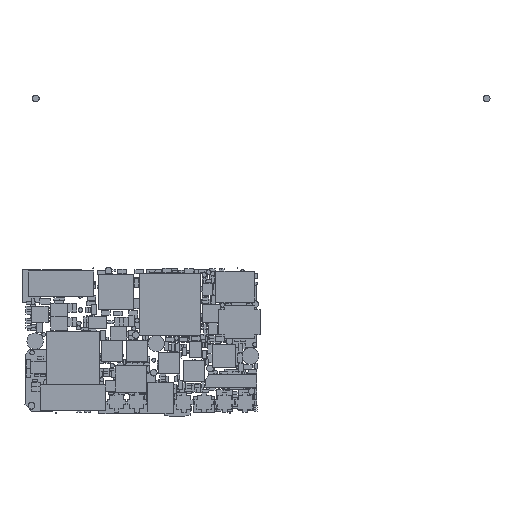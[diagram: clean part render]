
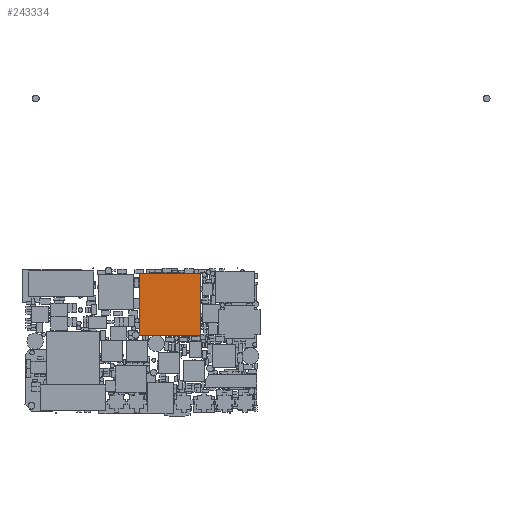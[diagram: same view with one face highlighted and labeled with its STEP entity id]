
A CAD part, top view. The second image highlights one B-rep face of the part: STEP entity #243334.
In plain terms, the highlighted planar face has unit normal (0, 0, 1).
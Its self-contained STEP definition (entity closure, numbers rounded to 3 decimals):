
#243020 = VERTEX_POINT('',#243021);
#243021 = CARTESIAN_POINT('',(39.284,47.99,1.6));
#243028 = PLANE('',#243029);
#243029 = AXIS2_PLACEMENT_3D('',#243030,#243031,#243032);
#243030 = CARTESIAN_POINT('',(39.284,47.99,0.));
#243031 = DIRECTION('',(0.,1.,0.));
#243032 = DIRECTION('',(1.,0.,0.));
#243040 = PLANE('',#243041);
#243041 = AXIS2_PLACEMENT_3D('',#243042,#243043,#243044);
#243042 = CARTESIAN_POINT('',(39.284,26.99,0.));
#243043 = DIRECTION('',(-1.,0.,0.));
#243044 = DIRECTION('',(0.,1.,0.));
#243052 = EDGE_CURVE('',#243020,#243053,#243055,.T.);
#243053 = VERTEX_POINT('',#243054);
#243054 = CARTESIAN_POINT('',(60.284,47.99,1.6));
#243055 = SURFACE_CURVE('',#243056,(#243060,#243067),.PCURVE_S1.);
#243056 = LINE('',#243057,#243058);
#243057 = CARTESIAN_POINT('',(39.284,47.99,1.6));
#243058 = VECTOR('',#243059,1.);
#243059 = DIRECTION('',(1.,0.,0.));
#243060 = PCURVE('',#243028,#243061);
#243061 = DEFINITIONAL_REPRESENTATION('',(#243062),#243066);
#243062 = LINE('',#243063,#243064);
#243063 = CARTESIAN_POINT('',(0.,-1.6));
#243064 = VECTOR('',#243065,1.);
#243065 = DIRECTION('',(1.,0.));
#243066 = ( GEOMETRIC_REPRESENTATION_CONTEXT(2) 
PARAMETRIC_REPRESENTATION_CONTEXT() REPRESENTATION_CONTEXT('2D SPACE',''
  ) );
#243067 = PCURVE('',#243068,#243073);
#243068 = PLANE('',#243069);
#243069 = AXIS2_PLACEMENT_3D('',#243070,#243071,#243072);
#243070 = CARTESIAN_POINT('',(39.284,47.99,1.6));
#243071 = DIRECTION('',(0.,0.,1.));
#243072 = DIRECTION('',(0.,-1.,0.));
#243073 = DEFINITIONAL_REPRESENTATION('',(#243074),#243078);
#243074 = LINE('',#243075,#243076);
#243075 = CARTESIAN_POINT('',(0.,0.));
#243076 = VECTOR('',#243077,1.);
#243077 = DIRECTION('',(0.,1.));
#243078 = ( GEOMETRIC_REPRESENTATION_CONTEXT(2) 
PARAMETRIC_REPRESENTATION_CONTEXT() REPRESENTATION_CONTEXT('2D SPACE',''
  ) );
#243096 = PLANE('',#243097);
#243097 = AXIS2_PLACEMENT_3D('',#243098,#243099,#243100);
#243098 = CARTESIAN_POINT('',(60.284,47.99,0.));
#243099 = DIRECTION('',(1.,0.,0.));
#243100 = DIRECTION('',(0.,-1.,0.));
#243140 = VERTEX_POINT('',#243141);
#243141 = CARTESIAN_POINT('',(39.284,26.99,1.6));
#243155 = PLANE('',#243156);
#243156 = AXIS2_PLACEMENT_3D('',#243157,#243158,#243159);
#243157 = CARTESIAN_POINT('',(60.284,26.99,0.));
#243158 = DIRECTION('',(0.,-1.,0.));
#243159 = DIRECTION('',(-1.,0.,0.));
#243167 = EDGE_CURVE('',#243140,#243020,#243168,.T.);
#243168 = SURFACE_CURVE('',#243169,(#243173,#243180),.PCURVE_S1.);
#243169 = LINE('',#243170,#243171);
#243170 = CARTESIAN_POINT('',(39.284,26.99,1.6));
#243171 = VECTOR('',#243172,1.);
#243172 = DIRECTION('',(0.,1.,0.));
#243173 = PCURVE('',#243040,#243174);
#243174 = DEFINITIONAL_REPRESENTATION('',(#243175),#243179);
#243175 = LINE('',#243176,#243177);
#243176 = CARTESIAN_POINT('',(0.,-1.6));
#243177 = VECTOR('',#243178,1.);
#243178 = DIRECTION('',(1.,0.));
#243179 = ( GEOMETRIC_REPRESENTATION_CONTEXT(2) 
PARAMETRIC_REPRESENTATION_CONTEXT() REPRESENTATION_CONTEXT('2D SPACE',''
  ) );
#243180 = PCURVE('',#243068,#243181);
#243181 = DEFINITIONAL_REPRESENTATION('',(#243182),#243186);
#243182 = LINE('',#243183,#243184);
#243183 = CARTESIAN_POINT('',(21.,0.));
#243184 = VECTOR('',#243185,1.);
#243185 = DIRECTION('',(-1.,0.));
#243186 = ( GEOMETRIC_REPRESENTATION_CONTEXT(2) 
PARAMETRIC_REPRESENTATION_CONTEXT() REPRESENTATION_CONTEXT('2D SPACE',''
  ) );
#243214 = EDGE_CURVE('',#243053,#243215,#243217,.T.);
#243215 = VERTEX_POINT('',#243216);
#243216 = CARTESIAN_POINT('',(60.284,26.99,1.6));
#243217 = SURFACE_CURVE('',#243218,(#243222,#243229),.PCURVE_S1.);
#243218 = LINE('',#243219,#243220);
#243219 = CARTESIAN_POINT('',(60.284,47.99,1.6));
#243220 = VECTOR('',#243221,1.);
#243221 = DIRECTION('',(0.,-1.,0.));
#243222 = PCURVE('',#243096,#243223);
#243223 = DEFINITIONAL_REPRESENTATION('',(#243224),#243228);
#243224 = LINE('',#243225,#243226);
#243225 = CARTESIAN_POINT('',(0.,-1.6));
#243226 = VECTOR('',#243227,1.);
#243227 = DIRECTION('',(1.,0.));
#243228 = ( GEOMETRIC_REPRESENTATION_CONTEXT(2) 
PARAMETRIC_REPRESENTATION_CONTEXT() REPRESENTATION_CONTEXT('2D SPACE',''
  ) );
#243229 = PCURVE('',#243068,#243230);
#243230 = DEFINITIONAL_REPRESENTATION('',(#243231),#243235);
#243231 = LINE('',#243232,#243233);
#243232 = CARTESIAN_POINT('',(0.,21.));
#243233 = VECTOR('',#243234,1.);
#243234 = DIRECTION('',(1.,0.));
#243235 = ( GEOMETRIC_REPRESENTATION_CONTEXT(2) 
PARAMETRIC_REPRESENTATION_CONTEXT() REPRESENTATION_CONTEXT('2D SPACE',''
  ) );
#243285 = EDGE_CURVE('',#243215,#243140,#243286,.T.);
#243286 = SURFACE_CURVE('',#243287,(#243291,#243298),.PCURVE_S1.);
#243287 = LINE('',#243288,#243289);
#243288 = CARTESIAN_POINT('',(60.284,26.99,1.6));
#243289 = VECTOR('',#243290,1.);
#243290 = DIRECTION('',(-1.,0.,0.));
#243291 = PCURVE('',#243155,#243292);
#243292 = DEFINITIONAL_REPRESENTATION('',(#243293),#243297);
#243293 = LINE('',#243294,#243295);
#243294 = CARTESIAN_POINT('',(0.,-1.6));
#243295 = VECTOR('',#243296,1.);
#243296 = DIRECTION('',(1.,0.));
#243297 = ( GEOMETRIC_REPRESENTATION_CONTEXT(2) 
PARAMETRIC_REPRESENTATION_CONTEXT() REPRESENTATION_CONTEXT('2D SPACE',''
  ) );
#243298 = PCURVE('',#243068,#243299);
#243299 = DEFINITIONAL_REPRESENTATION('',(#243300),#243304);
#243300 = LINE('',#243301,#243302);
#243301 = CARTESIAN_POINT('',(21.,21.));
#243302 = VECTOR('',#243303,1.);
#243303 = DIRECTION('',(0.,-1.));
#243304 = ( GEOMETRIC_REPRESENTATION_CONTEXT(2) 
PARAMETRIC_REPRESENTATION_CONTEXT() REPRESENTATION_CONTEXT('2D SPACE',''
  ) );
#243334 = ADVANCED_FACE('',(#243335),#243068,.T.);
#243335 = FACE_BOUND('',#243336,.T.);
#243336 = EDGE_LOOP('',(#243337,#243338,#243339,#243340));
#243337 = ORIENTED_EDGE('',*,*,#243052,.F.);
#243338 = ORIENTED_EDGE('',*,*,#243167,.F.);
#243339 = ORIENTED_EDGE('',*,*,#243285,.F.);
#243340 = ORIENTED_EDGE('',*,*,#243214,.F.);
